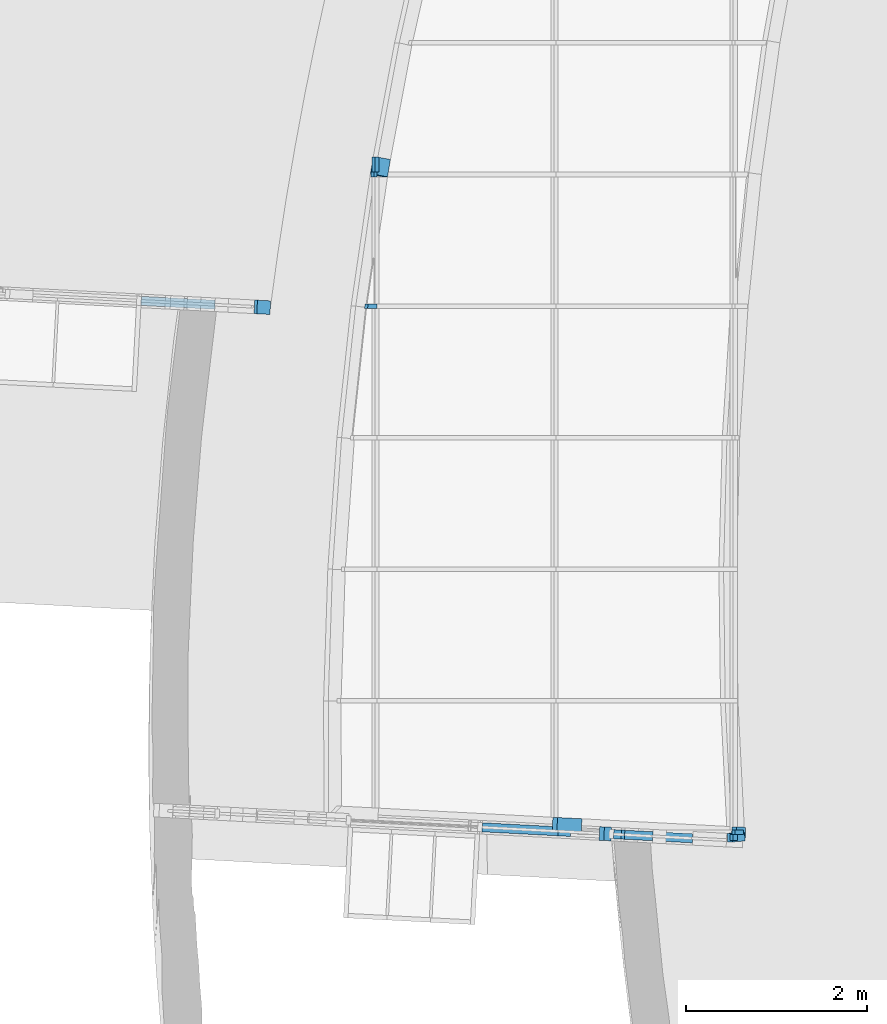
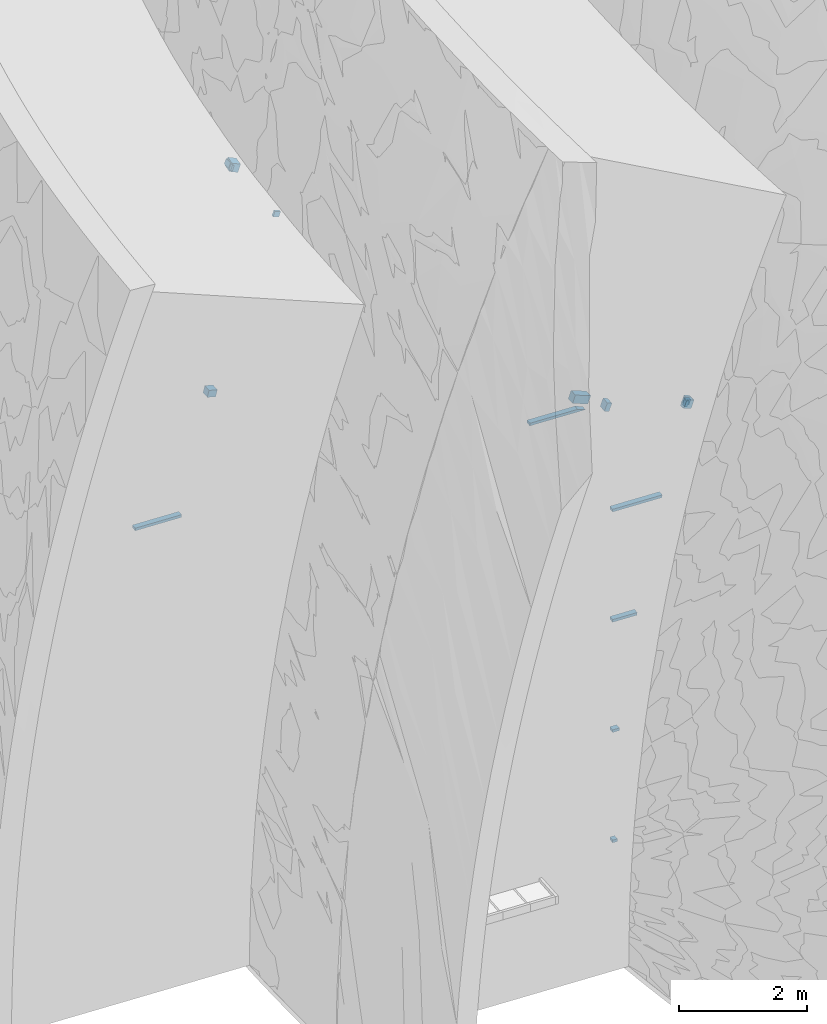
# One storey, part 27 of 82: 17 members, 2 elements without a shape of their own.
"""IFC2X3 building model written with IfcOpenShell, lengths in millimetres."""

from ifc_helpers import new_model, entity, si_unit, converted_unit, derived_unit, direction, frame, frame_2d, origin, origin_2d_with_axis, place, context, subcontext, project, spatial, polyline, rectangle, extrude, clip, halfspace, bounded_halfspace, source, transform, mapped, material, type_object, type_shapes, element, aggregate, save


model = new_model("IFC2X3")

# Units and contexts
model_context = context("Model", 3, precision=0.01, world=origin(), true_north=direction((6.12303176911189e-17, 1.0)))
body_context = subcontext(model_context, "Body", "Model", "MODEL_VIEW")
ifc_project = project(units=[si_unit("LENGTHUNIT", "METRE", prefix="MILLI"), si_unit("AREAUNIT", "SQUARE_METRE"), si_unit("VOLUMEUNIT", "CUBIC_METRE"), converted_unit("PLANEANGLEUNIT", "DEGREE", entity("IfcRatioMeasure", 0.0174532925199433), si_unit("PLANEANGLEUNIT", "RADIAN"), dimensions=[0, 0, 0, 0, 0, 0, 0]), si_unit("MASSUNIT", "GRAM", prefix="KILO"), derived_unit("MASSDENSITYUNIT", [(si_unit("MASSUNIT", "GRAM", prefix="KILO"), 1), (si_unit("LENGTHUNIT", "METRE"), -3)]), si_unit("TIMEUNIT", "SECOND"), si_unit("FREQUENCYUNIT", "HERTZ"), si_unit("THERMODYNAMICTEMPERATUREUNIT", "DEGREE_CELSIUS"), derived_unit("THERMALTRANSMITTANCEUNIT", [(si_unit("MASSUNIT", "GRAM", prefix="KILO"), 1), (si_unit("THERMODYNAMICTEMPERATUREUNIT", "KELVIN"), -1), (si_unit("TIMEUNIT", "SECOND"), -3)]), derived_unit("VOLUMETRICFLOWRATEUNIT", [(si_unit("LENGTHUNIT", "METRE"), 3), (si_unit("TIMEUNIT", "SECOND"), -1)]), si_unit("ELECTRICCURRENTUNIT", "AMPERE"), si_unit("ELECTRICVOLTAGEUNIT", "VOLT"), si_unit("POWERUNIT", "WATT"), si_unit("FORCEUNIT", "NEWTON", prefix="KILO"), si_unit("ILLUMINANCEUNIT", "LUX"), si_unit("LUMINOUSFLUXUNIT", "LUMEN"), si_unit("LUMINOUSINTENSITYUNIT", "CANDELA"), derived_unit("USERDEFINED", [(si_unit("MASSUNIT", "GRAM", prefix="KILO"), -1), (si_unit("LENGTHUNIT", "METRE"), -2), (si_unit("TIMEUNIT", "SECOND"), 3), (si_unit("LUMINOUSFLUXUNIT", "LUMEN"), 1)]), derived_unit("LINEARVELOCITYUNIT", [(si_unit("LENGTHUNIT", "METRE"), 1), (si_unit("TIMEUNIT", "SECOND"), -1)]), si_unit("PRESSUREUNIT", "PASCAL"), derived_unit("USERDEFINED", [(si_unit("LENGTHUNIT", "METRE"), -2), (si_unit("MASSUNIT", "GRAM", prefix="KILO"), 1), (si_unit("TIMEUNIT", "SECOND"), -2)])], contexts=[model_context])

# Site, building, storey
site_placement = place(None, origin())
site = spatial("IfcSite", under=ifc_project, at=site_placement, Name="表面", CompositionType="ELEMENT")
building_placement = place(site_placement, origin())
building = spatial("IfcBuilding", under=site, at=building_placement, CompositionType="ELEMENT")
storey_placement = place(building_placement, origin())
storey = spatial("IfcBuildingStorey", under=building, at=storey_placement, Name="1F", CompositionType="ELEMENT", Elevation=0.0)

# Curtain wall, members
curtain_wall_type = type_object("IfcCurtainWallType", Name="幕墙系统:1450 x 2100mm", PredefinedType="NOTDEFINED")
curtain_wall_1_placement = place(storey_placement, origin())
curtain_wall_1 = element("IfcCurtainWall", 1, at=curtain_wall_1_placement, inside=storey, type_object=curtain_wall_type, Name="幕墙系统:1450 x 2100mm", ObjectType="幕墙系统:1450 x 2100mm")
ifc_material_1 = material(Name="木质 - 木材")
member_type_1 = type_object("IfcMemberType", Name="200 x 150mm", PredefinedType="MEMBER")
shared_shape_1 = source(origin(), body_context, "Body", "SweptSolid", [
    extrude(rectangle(XDim=150.0, YDim=150.0, at=origin_2d_with_axis()), frame((-75.0, 0.0, -127.53287582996), z_axis=(0.0, 0.0, 1.0), x_axis=(0.0, -1.0, 0.0)), (0.0, 0.0, 1.0), 127.53287582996),
])
type_shapes(member_type_1, [shared_shape_1])
placement_1 = place(building_placement, frame((0.0, 0.0, 6000.0)))
member_1_placement = place(placement_1, frame((-39918.5597847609, -14512.9677414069, 2400.0), z_axis=(-0.232302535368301, 0.012174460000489, -0.97256738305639), x_axis=(0.971234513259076, -0.050900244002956, -0.232621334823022)))
member_1 = element("IfcMember", 2, at=member_1_placement, type_object=member_type_1, material=ifc_material_1, Name="矩形竖梃:200 x 150mm", ObjectType="200 x 150mm", context=body_context, shape_type="MappedRepresentation", body=[
    mapped(shared_shape_1, transform((0.0, 0.0, 0.0), scale=1.0)),
])
ifc_material_2 = material(Name="金属 - 铝")
member_type_2 = type_object("IfcMemberType", Name="50 x 100mm", PredefinedType="MEMBER")
shared_shape_2 = source(origin(), body_context, "Body", "Clipping", [
    clip(extrude(rectangle(XDim=100.0, YDim=50.0, at=origin_2d_with_axis()), frame((0.0, 0.0, -961.891968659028), z_axis=(0.0, 0.0, 1.0), x_axis=(0.0, -1.0, 0.0)), (0.0, 0.0, 1.0), 813.95140890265), halfspace(frame((-2078.34236070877, 75.0, -454.845942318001), z_axis=(-0.144384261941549, 0.0, 0.989521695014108), x_axis=(0.989521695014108, 0.0, 0.144384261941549)), False)),
])
type_shapes(member_type_2, [shared_shape_2])
member_2_placement = place(placement_1, frame((-40351.4069322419, -14490.2831836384, 300.0), z_axis=(0.998629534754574, -0.0523359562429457, 0.0), x_axis=(0.0, 0.0, 1.0)))
member_2 = element("IfcMember", 3, at=member_2_placement, type_object=member_type_2, material=ifc_material_2, Name="矩形竖梃:50 x 100mm", ObjectType="50 x 100mm", context=body_context, shape_type="MappedRepresentation", body=[
    mapped(shared_shape_2, transform((0.0, 0.0, 0.0), scale=1.0)),
])
aggregate(curtain_wall_1, [member_1, member_2])

curtain_wall_2_placement = place(storey_placement, origin())
curtain_wall_2 = element("IfcCurtainWall", 4, at=curtain_wall_2_placement, inside=storey, type_object=curtain_wall_type, Name="幕墙系统:1450 x 2100mm", ObjectType="幕墙系统:1450 x 2100mm")
member_type_3 = type_object("IfcMemberType", Name="200 x 150mm", PredefinedType="MEMBER")
shared_shape_3 = source(origin(), body_context, "Body", "SweptSolid", [
    extrude(rectangle(XDim=150.0, YDim=150.0, at=origin_2d_with_axis()), frame((-75.0, 0.0, -94.8808269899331), z_axis=(0.0, 0.0, 1.0), x_axis=(0.0, -1.0, 0.0)), (0.0, 0.0, 1.0), 94.8808269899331),
])
type_shapes(member_type_3, [shared_shape_3])
placement_2 = place(building_placement, frame((0.0, 0.0, 9000.0)))
member_3_placement = place(placement_2, frame((-34682.4254990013, -20391.4953704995, 943.638803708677), z_axis=(0.0698084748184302, -0.997236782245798, -0.0254082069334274), x_axis=(0.937096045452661, 0.0742886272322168, -0.341075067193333)))
member_3 = element("IfcMember", 5, at=member_3_placement, type_object=member_type_3, material=ifc_material_1, Name="矩形竖梃:200 x 150mm", ObjectType="200 x 150mm", context=body_context, shape_type="MappedRepresentation", body=[
    mapped(shared_shape_3, transform((0.0, 0.0, 0.0), scale=1.0)),
])
member_type_4 = type_object("IfcMemberType", Name="200 x 150mm", PredefinedType="MEMBER")
shared_shape_4 = source(origin(), body_context, "Body", "SweptSolid", [
    extrude(rectangle(XDim=150.0, YDim=150.0, at=origin_2d_with_axis()), frame((-75.0, 0.0, -194.121418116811), z_axis=(0.0, 0.0, 1.0), x_axis=(0.0, -1.0, 0.0)), (0.0, 0.0, 1.0), 194.121418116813),
])
type_shapes(member_type_4, [shared_shape_4])
member_4_placement = place(placement_2, frame((-38729.9799238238, -12855.7791288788, 2416.82813591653), z_axis=(0.165213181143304, 0.984423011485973, -0.0601326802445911), x_axis=(-0.925055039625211, 0.17581619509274, 0.336692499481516)))
member_4 = element("IfcMember", 6, at=member_4_placement, type_object=member_type_4, material=ifc_material_1, Name="矩形竖梃:200 x 150mm", ObjectType="200 x 150mm", context=body_context, shape_type="MappedRepresentation", body=[
    mapped(shared_shape_4, transform((0.0, 0.0, 0.0), scale=1.0)),
])
member_type_5 = type_object("IfcMemberType", Name="200 x 150mm", PredefinedType="MEMBER")
shared_shape_5 = source(origin(), body_context, "Body", "SweptSolid", [
    extrude(rectangle(XDim=150.0, YDim=150.0, at=origin_2d_with_axis()), frame((-75.0, 0.0, -107.447510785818), z_axis=(0.0, 0.0, 1.0), x_axis=(0.0, -1.0, 0.0)), (0.0, 0.0, 1.0), 107.447510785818),
])
type_shapes(member_type_5, [shared_shape_5])
member_5_placement = place(placement_2, frame((-34783.270916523, -20386.2102861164, 980.343533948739), z_axis=(-0.938555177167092, 0.0491875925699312, 0.341606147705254), x_axis=(-0.0462212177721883, -0.998789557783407, 0.0168231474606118)))
member_5 = element("IfcMember", 7, at=member_5_placement, type_object=member_type_5, material=ifc_material_1, Name="矩形竖梃:200 x 150mm", ObjectType="200 x 150mm", context=body_context, shape_type="MappedRepresentation", body=[
    mapped(shared_shape_5, transform((0.0, 0.0, 0.0), scale=1.0)),
])
member_type_6 = type_object("IfcMemberType", Name="200 x 150mm", PredefinedType="MEMBER")
shared_shape_6 = source(origin(), body_context, "Body", "SweptSolid", [
    extrude(rectangle(XDim=150.0, YDim=150.0, at=frame_2d((-2.8421709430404e-14, 0.0), x_axis=(1.0, 0.0))), frame((-75.0, 0.0, -286.364107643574), z_axis=(0.0, 0.0, 1.0), x_axis=(0.0, -1.0, 0.0)), (0.0, 0.0, 1.0), 286.364107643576),
])
type_shapes(member_type_6, [shared_shape_6])
member_6_placement = place(placement_2, frame((-36756.6254201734, -20282.7911588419, 1698.58583493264), z_axis=(-0.938555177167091, 0.0491875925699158, 0.341606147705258), x_axis=(-0.0462212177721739, -0.998789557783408, 0.0168231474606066)))
member_6 = element("IfcMember", 8, at=member_6_placement, type_object=member_type_6, material=ifc_material_1, Name="矩形竖梃:200 x 150mm", ObjectType="200 x 150mm", context=body_context, shape_type="MappedRepresentation", body=[
    mapped(shared_shape_6, transform((0.0, 0.0, 0.0), scale=1.0)),
])
member_type_7 = type_object("IfcMemberType", Name="50 x 100mm", PredefinedType="MEMBER")
shared_shape_7 = source(origin(), body_context, "Body", "SweptSolid", [
    extrude(rectangle(XDim=100.0, YDim=50.0, at=origin_2d_with_axis()), frame((0.0, 0.0, -64.3335662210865), z_axis=(0.0, 0.0, 1.0), x_axis=(0.0, -1.0, 0.0)), (0.0, 0.0, 1.0), 64.3335662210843),
])
type_shapes(member_type_7, [shared_shape_7])
member_7_placement = place(placement_2, frame((-34783.270916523, -20321.8767198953, 980.343533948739), z_axis=(0.0, 1.0, 0.0), x_axis=(-0.93969262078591, 0.0, 0.342020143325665)))
member_7 = element("IfcMember", 9, at=member_7_placement, type_object=member_type_7, material=ifc_material_2, Name="矩形竖梃:50 x 100mm", ObjectType="50 x 100mm", context=body_context, shape_type="MappedRepresentation", body=[
    mapped(shared_shape_7, transform((0.0, 0.0, 0.0), scale=1.0)),
])
member_type_8 = type_object("IfcMemberType", Name="50 x 100mm", PredefinedType="MEMBER")
shared_shape_8 = source(origin(), body_context, "Body", "SweptSolid", [
    extrude(rectangle(XDim=100.0, YDim=50.0, at=origin_2d_with_axis()), frame((0.0, 0.0, -166.097591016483), z_axis=(0.0, 0.0, 1.0), x_axis=(0.0, -1.0, 0.0)), (0.0, 0.0, 1.0), 166.097591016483),
])
type_shapes(member_type_8, [shared_shape_8])
member_8_placement = place(placement_2, frame((-38729.9799238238, -12855.7791288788, 2416.82813591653), z_axis=(0.0, 1.0, 0.0), x_axis=(-0.93969262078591, 0.0, 0.342020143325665)))
member_8 = element("IfcMember", 10, at=member_8_placement, type_object=member_type_8, material=ifc_material_2, Name="矩形竖梃:50 x 100mm", ObjectType="50 x 100mm", context=body_context, shape_type="MappedRepresentation", body=[
    mapped(shared_shape_8, transform((0.0, 0.0, 0.0), scale=1.0)),
])
member_type_9 = type_object("IfcMemberType", Name="50 x 100mm", PredefinedType="MEMBER")
shared_shape_9 = source(origin(), body_context, "Body", "SweptSolid", [
    extrude(rectangle(XDim=100.0, YDim=50.0, at=origin_2d_with_axis()), frame((0.0, 0.0, -34.1296891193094), z_axis=(0.0, 0.0, 1.0), x_axis=(0.0, -1.0, 0.0)), (0.0, 0.0, 1.0), 34.1296891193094),
])
type_shapes(member_type_9, [shared_shape_9])
member_9_placement = place(placement_2, frame((-38762.0513408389, -13046.8767198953, 2428.50117708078), z_axis=(-0.939692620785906, 0.0, 0.342020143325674), x_axis=(0.0, -1.0, 0.0)))
member_9 = element("IfcMember", 11, at=member_9_placement, type_object=member_type_9, material=ifc_material_2, Name="矩形竖梃:50 x 100mm", ObjectType="50 x 100mm", context=body_context, shape_type="MappedRepresentation", body=[
    mapped(shared_shape_9, transform((0.0, 0.0, 0.0), scale=1.0)),
])
member_type_10 = type_object("IfcMemberType", Name="50 x 100mm", PredefinedType="MEMBER")
shared_shape_10 = source(origin(), body_context, "Body", "Clipping", [
    clip(clip(extrude(rectangle(XDim=100.0, YDim=50.0, at=origin_2d_with_axis()), frame((0.0, 0.0, -259.115760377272), z_axis=(0.0, 0.0, 1.0), x_axis=(0.0, -1.0, 0.0)), (0.0, 0.0, 1.0), 110.996330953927), bounded_halfspace(frame((-1427.00079091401, 75.0, -373.212372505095), z_axis=(-0.15332806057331, 0.0, 0.988175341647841), x_axis=(0.988175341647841, 0.0, 0.15332806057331)), False, frame((0.0, 0.0, -259.115760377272), z_axis=(0.0, 0.0, 1.0), x_axis=(0.0, -1.0, 0.0)), polyline([(-50.0, 20.0222101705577), (-50.0, -25.0), (50.0, -25.0), (50.0, 20.0222101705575), (-50.0, 20.0222101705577)]))), bounded_halfspace(frame((20.0222101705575, 75.0, -148.688220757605), z_axis=(-0.113527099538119, 0.0, 0.993534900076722), x_axis=(0.993534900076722, 0.0, 0.113527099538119)), False, frame((0.0, 0.0, -259.115760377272), z_axis=(0.0, 0.0, 1.0), x_axis=(0.0, -1.0, 0.0)), polyline([(-50.0, 25.0), (-50.0, 20.0222101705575), (50.0, 20.0222101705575), (50.0, 25.0), (-50.0, 25.0)]))),
])
type_shapes(member_type_10, [shared_shape_10])
member_10_placement = place(placement_2, frame((-38973.4690917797, -14496.8767198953, 2505.45094541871), z_axis=(-0.939692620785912, 0.0, 0.342020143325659), x_axis=(0.0, -1.0, 0.0)))
member_10 = element("IfcMember", 12, at=member_10_placement, type_object=member_type_10, material=ifc_material_2, Name="矩形竖梃:50 x 100mm", ObjectType="50 x 100mm", context=body_context, shape_type="MappedRepresentation", body=[
    mapped(shared_shape_10, transform((0.0, 0.0, 0.0), scale=1.0)),
])
member_type_11 = type_object("IfcMemberType", Name="50 x 100mm", PredefinedType="MEMBER")
shared_shape_11 = source(origin(), body_context, "Body", "SweptSolid", [
    extrude(rectangle(XDim=100.0, YDim=50.0, at=frame_2d((-7.105427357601e-15, 0.0), x_axis=(1.0, 0.0))), frame((0.0, 0.0, -100.268885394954), z_axis=(0.0, 0.0, 1.0), x_axis=(0.0, -1.0, 0.0)), (0.0, 0.0, 1.0), 100.268885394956),
])
type_shapes(member_type_11, [shared_shape_11])
member_11_placement = place(placement_2, frame((-34783.270916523, -20296.8767198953, 980.343533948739), z_axis=(-0.939692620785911, 0.0, 0.342020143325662), x_axis=(0.0, -1.0, 0.0)))
member_11 = element("IfcMember", 13, at=member_11_placement, type_object=member_type_11, material=ifc_material_2, Name="矩形竖梃:50 x 100mm", ObjectType="50 x 100mm", context=body_context, shape_type="MappedRepresentation", body=[
    mapped(shared_shape_11, transform((0.0, 0.0, 0.0), scale=1.0)),
])
member_type_12 = type_object("IfcMemberType", Name="200 x 150mm", PredefinedType="MEMBER")
shared_shape_12 = source(origin(), body_context, "Body", "SweptSolid", [
    extrude(rectangle(XDim=150.0, YDim=150.0, at=origin_2d_with_axis()), frame((-75.0, 0.0, -85.8521698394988), z_axis=(0.0, 0.0, 1.0), x_axis=(0.0, -1.0, 0.0)), (0.0, 0.0, 1.0), 85.8521698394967),
])
type_shapes(member_type_12, [shared_shape_12])
member_12_placement = place(placement_2, frame((-36130.4383243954, -20315.6082339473, 1470.67237098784), z_axis=(0.938555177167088, -0.0491875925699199, -0.341606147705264), x_axis=(0.34113798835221, -0.0178782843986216, 0.939843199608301)))
member_12 = element("IfcMember", 14, at=member_12_placement, type_object=member_type_12, material=ifc_material_1, Name="矩形竖梃:200 x 150mm", ObjectType="200 x 150mm", context=body_context, shape_type="MappedRepresentation", body=[
    mapped(shared_shape_12, transform((0.0, 0.0, 0.0), scale=1.0)),
])
member_type_13 = type_object("IfcMemberType", Name="50 x 100mm", PredefinedType="MEMBER")
shared_shape_13 = source(origin(), body_context, "Body", "SweptSolid", [
    extrude(rectangle(XDim=100.0, YDim=50.0, at=origin_2d_with_axis()), frame((0.0, 0.0, -84.3653098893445), z_axis=(0.0, 0.0, 1.0), x_axis=(0.0, -1.0, 0.0)), (0.0, 0.0, 1.0), 84.3653098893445),
])
type_shapes(member_type_13, [shared_shape_13])
member_13_placement = place(storey_placement, frame((-36021.2228958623, -20321.3319720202, 2100.0), z_axis=(0.998629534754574, -0.0523359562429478, 0.0), x_axis=(0.0, 0.0, 1.0)))
member_13 = element("IfcMember", 15, at=member_13_placement, type_object=member_type_13, material=ifc_material_2, Name="矩形竖梃:50 x 100mm", ObjectType="50 x 100mm", context=body_context, shape_type="MappedRepresentation", body=[
    mapped(shared_shape_13, transform((0.0, 0.0, 0.0), scale=1.0)),
])
member_type_14 = type_object("IfcMemberType", Name="50 x 100mm", PredefinedType="MEMBER")
shared_shape_14 = source(origin(), body_context, "Body", "Clipping", [
    clip(clip(extrude(rectangle(XDim=100.0, YDim=50.0, at=origin_2d_with_axis()), frame((0.0, 0.0, -269.091489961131), z_axis=(0.0, 0.0, 1.0), x_axis=(0.0, -1.0, 0.0)), (0.0, 0.0, 1.0), 121.1564478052), bounded_halfspace(frame((17.5405358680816, 75.0, -149.036267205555), z_axis=(-0.146045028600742, 0.0, 0.989277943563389), x_axis=(0.989277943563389, 0.0, 0.146045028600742)), False, frame((0.0, 0.0, -269.091489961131), z_axis=(0.0, 0.0, 1.0), x_axis=(0.0, -1.0, 0.0)), polyline([(-50.0, 25.0), (-50.0, 17.5405358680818), (50.0, 17.5405358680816), (50.0, 25.0), (-50.0, 25.0)]))), bounded_halfspace(frame((-2086.85602766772, 75.0, -334.149190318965), z_axis=(-0.0876264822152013, 0.0, 0.996153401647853), x_axis=(0.996153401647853, 0.0, 0.0876264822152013)), False, frame((0.0, 0.0, -269.091489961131), z_axis=(0.0, 0.0, 1.0), x_axis=(0.0, -1.0, 0.0)), polyline([(-50.0, 17.5405358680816), (-50.0, -25.0), (50.0, -25.0), (50.0, 17.5405358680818), (-50.0, 17.5405358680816)]))),
])
type_shapes(member_type_14, [shared_shape_14])
placement_3 = place(building_placement, frame((0.0, 0.0, 3000.0)))
member_14_placement = place(placement_3, frame((-35836.7498766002, -20330.9997932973, 1200.0), z_axis=(0.998629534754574, -0.0523359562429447, 0.0), x_axis=(0.0, 0.0, 1.0)))
member_14 = element("IfcMember", 16, at=member_14_placement, type_object=member_type_14, material=ifc_material_2, Name="矩形竖梃:50 x 100mm", ObjectType="50 x 100mm", context=body_context, shape_type="MappedRepresentation", body=[
    mapped(shared_shape_14, transform((0.0, 0.0, 0.0), scale=1.0)),
])
member_type_15 = type_object("IfcMemberType", Name="50 x 100mm", PredefinedType="MEMBER")
shared_shape_15 = source(origin(), body_context, "Body", "Clipping", [
    clip(extrude(rectangle(XDim=100.0, YDim=50.0, at=origin_2d_with_axis()), frame((0.0, 0.0, -579.110086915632), z_axis=(0.0, 0.0, 1.0), x_axis=(0.0, -1.0, 0.0)), (0.0, 0.0, 1.0), 431.175044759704), halfspace(frame((-2078.09324570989, 75.0, -458.410288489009), z_axis=(-0.146045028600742, 0.0, 0.989277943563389), x_axis=(0.989277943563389, 0.0, 0.146045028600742)), False)),
])
type_shapes(member_type_15, [shared_shape_15])
member_15_placement = place(placement_1, frame((-35527.1561493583, -20347.224913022, 300.0), z_axis=(0.998629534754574, -0.052335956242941, 0.0), x_axis=(0.0, 0.0, 1.0)))
member_15 = element("IfcMember", 17, at=member_15_placement, type_object=member_type_15, material=ifc_material_2, Name="矩形竖梃:50 x 100mm", ObjectType="50 x 100mm", context=body_context, shape_type="MappedRepresentation", body=[
    mapped(shared_shape_15, transform((0.0, 0.0, 0.0), scale=1.0)),
])
member_type_16 = type_object("IfcMemberType", Name="50 x 100mm", PredefinedType="MEMBER")
shared_shape_16 = source(origin(), body_context, "Body", "Clipping", [
    clip(extrude(rectangle(XDim=100.0, YDim=50.0, at=origin_2d_with_axis()), frame((0.0, 0.0, -1017.75332016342), z_axis=(0.0, 0.0, 1.0), x_axis=(0.0, -1.0, 0.0)), (0.0, 0.0, 1.0), 869.737954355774), halfspace(frame((-2069.33025673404, 75.0, -585.474315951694), z_axis=(-0.204464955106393, 0.0, 0.978873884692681), x_axis=(0.978873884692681, 0.0, 0.204464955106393)), False)),
])
type_shapes(member_type_16, [shared_shape_16])
member_16_placement = place(placement_1, frame((-35089.1140614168, -20370.1817260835, 2400.0), z_axis=(0.998629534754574, -0.0523359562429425, 0.0), x_axis=(0.0, 0.0, 1.0)))
member_16 = element("IfcMember", 18, at=member_16_placement, type_object=member_type_16, material=ifc_material_2, Name="矩形竖梃:50 x 100mm", ObjectType="50 x 100mm", context=body_context, shape_type="MappedRepresentation", body=[
    mapped(shared_shape_16, transform((0.0, 0.0, 0.0), scale=1.0)),
])
member_type_17 = type_object("IfcMemberType", Name="50 x 100mm", PredefinedType="MEMBER")
shared_shape_17 = source(origin(), body_context, "Body", "Clipping", [
    clip(extrude(rectangle(XDim=100.0, YDim=50.0, at=origin_2d_with_axis()), frame((0.0, 0.0, -1344.31242200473), z_axis=(0.0, 0.0, 1.0), x_axis=(0.0, -1.0, 0.0)), (0.0, 0.0, 1.0), 973.991451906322), halfspace(frame((-140.976479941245, 75.0, -51.2409221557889), z_axis=(0.939843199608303, 0.0, 0.34160614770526), x_axis=(0.34160614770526, 0.0, -0.939843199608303)), False)),
])
type_shapes(member_type_17, [shared_shape_17])
member_17_placement = place(placement_2, frame((-36211.0153228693, -20311.385372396, 1500.0), z_axis=(0.998629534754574, -0.0523359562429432, 0.0), x_axis=(0.0, 0.0, 1.0)))
member_17 = element("IfcMember", 19, at=member_17_placement, type_object=member_type_17, material=ifc_material_2, Name="矩形竖梃:50 x 100mm", ObjectType="50 x 100mm", context=body_context, shape_type="MappedRepresentation", body=[
    mapped(shared_shape_17, transform((0.0, 0.0, 0.0), scale=1.0)),
])
aggregate(curtain_wall_2, [member_3, member_4, member_5, member_6, member_7, member_8, member_9, member_10, member_11, member_12, member_13, member_14, member_15, member_16, member_17])

save(model, "model.ifc")
